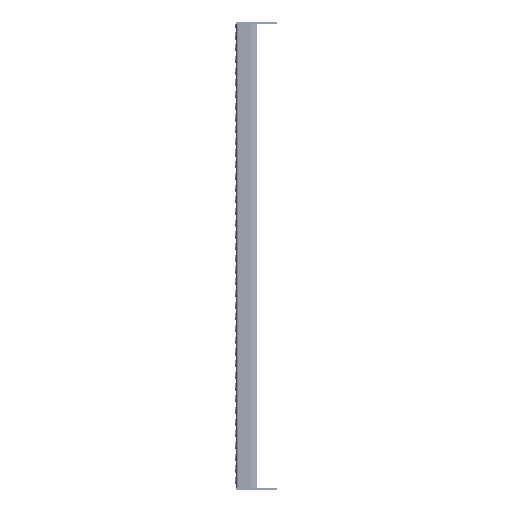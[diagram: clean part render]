
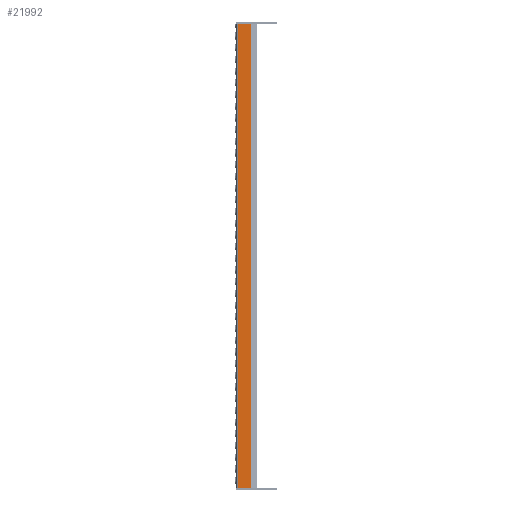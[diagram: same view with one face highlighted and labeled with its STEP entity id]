
A CAD part, left-side view. The second image highlights one B-rep face of the part: STEP entity #21992.
In plain terms, the highlighted planar face has unit normal (-1, 0, 0).
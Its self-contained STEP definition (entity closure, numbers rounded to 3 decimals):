
#2243=FACE_OUTER_BOUND('',#3703,.T.);
#3703=EDGE_LOOP('',(#17448,#17449,#17450,#17451));
#5191=LINE('',#38602,#7670);
#5202=LINE('',#38632,#7681);
#5212=LINE('',#38655,#7691);
#5219=LINE('',#38670,#7698);
#7670=VECTOR('',#27669,10.);
#7681=VECTOR('',#27694,10.);
#7691=VECTOR('',#27716,10.);
#7698=VECTOR('',#27735,10.);
#10232=VERTEX_POINT('',#38599);
#10233=VERTEX_POINT('',#38601);
#10245=VERTEX_POINT('',#38631);
#10252=VERTEX_POINT('',#38654);
#12781=EDGE_CURVE('',#10233,#10232,#5191,.T.);
#12796=EDGE_CURVE('',#10232,#10245,#5202,.T.);
#12808=EDGE_CURVE('',#10252,#10233,#5212,.T.);
#12816=EDGE_CURVE('',#10245,#10252,#5219,.T.);
#17448=ORIENTED_EDGE('',*,*,#12796,.T.);
#17449=ORIENTED_EDGE('',*,*,#12816,.T.);
#17450=ORIENTED_EDGE('',*,*,#12808,.T.);
#17451=ORIENTED_EDGE('',*,*,#12781,.T.);
#20698=PLANE('',#23824);
#21992=ADVANCED_FACE('',(#2243),#20698,.T.);
#23824=AXIS2_PLACEMENT_3D('',#38671,#27736,#27737);
#27669=DIRECTION('',(0.,1.,0.));
#27694=DIRECTION('',(0.,0.,-1.));
#27716=DIRECTION('',(0.,0.,1.));
#27735=DIRECTION('',(0.,-1.,0.));
#27736=DIRECTION('center_axis',(-1.,0.,0.));
#27737=DIRECTION('ref_axis',(0.,0.,1.));
#38599=CARTESIAN_POINT('',(0.,-3.25,794.));
#38601=CARTESIAN_POINT('',(0.,-24.427,794.));
#38602=CARTESIAN_POINT('',(0.,0.,794.));
#38631=CARTESIAN_POINT('',(0.,-3.25,0.));
#38632=CARTESIAN_POINT('',(0.,-3.25,0.));
#38654=CARTESIAN_POINT('',(0.,-24.427,0.));
#38655=CARTESIAN_POINT('',(0.,-24.427,198.5));
#38670=CARTESIAN_POINT('',(0.,0.,0.));
#38671=CARTESIAN_POINT('Origin',(0.,-25.,0.));
